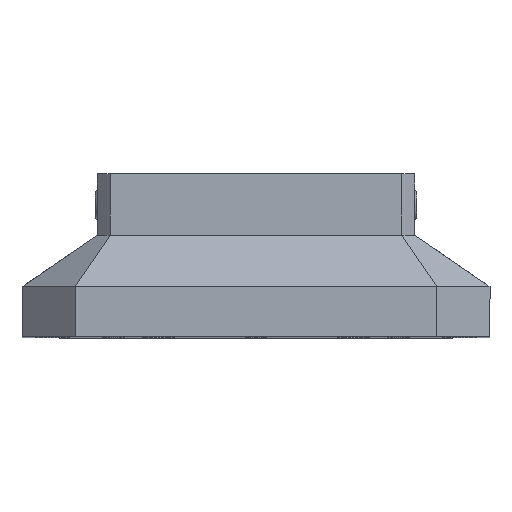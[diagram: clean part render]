
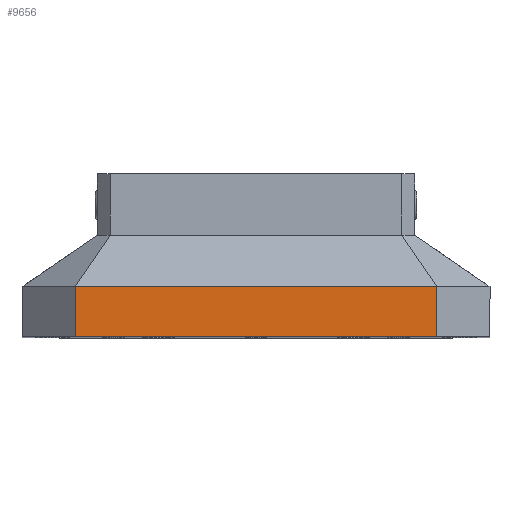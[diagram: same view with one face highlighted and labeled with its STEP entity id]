
A CAD part, top view. The second image highlights one B-rep face of the part: STEP entity #9656.
In plain terms, the highlighted planar face has unit normal (0, 0, 1) as drawn and (-1, 0, 0) by its records, which use the part's own axes.
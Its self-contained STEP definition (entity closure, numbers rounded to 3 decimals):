
#301 = DIRECTION ( 'NONE',  ( 0., 1., 0. ) ) ;
#405 = ORIENTED_EDGE ( 'NONE', *, *, #1131, .T. ) ;
#1131 = EDGE_CURVE ( 'NONE', #8986, #2150, #8290, .T. ) ;
#1228 = EDGE_CURVE ( 'NONE', #10404, #2150, #13823, .T. ) ;
#1678 = FACE_OUTER_BOUND ( 'NONE', #10096, .T. ) ;
#2150 = VERTEX_POINT ( 'NONE', #13621 ) ;
#2915 = LINE ( 'NONE', #15494, #4788 ) ;
#3446 = EDGE_CURVE ( 'NONE', #8986, #3770, #2915, .T. ) ;
#3532 = CARTESIAN_POINT ( 'NONE',  ( -190.5, 0., 88.9 ) ) ;
#3770 = VERTEX_POINT ( 'NONE', #12435 ) ;
#4788 = VECTOR ( 'NONE', #10700, 1000. ) ;
#6019 = ORIENTED_EDGE ( 'NONE', *, *, #3446, .F. ) ;
#7787 = EDGE_CURVE ( 'NONE', #3770, #10404, #15528, .T. ) ;
#7806 = CARTESIAN_POINT ( 'NONE',  ( -190.5, 0., -88.9 ) ) ;
#7992 = AXIS2_PLACEMENT_3D ( 'NONE', #13014, #10529, #11547 ) ;
#8290 = LINE ( 'NONE', #3532, #8641 ) ;
#8411 = CARTESIAN_POINT ( 'NONE',  ( -190.5, 24.6, -88.9 ) ) ;
#8641 = VECTOR ( 'NONE', #10910, 1000. ) ;
#8986 = VERTEX_POINT ( 'NONE', #9752 ) ;
#9656 = ADVANCED_FACE ( 'NONE', ( #1678 ), #12777, .F. ) ;
#9752 = CARTESIAN_POINT ( 'NONE',  ( -190.5, 0., 88.9 ) ) ;
#9939 = ORIENTED_EDGE ( 'NONE', *, *, #7787, .F. ) ;
#10096 = EDGE_LOOP ( 'NONE', ( #405, #12836, #9939, #6019 ) ) ;
#10404 = VERTEX_POINT ( 'NONE', #8411 ) ;
#10529 = DIRECTION ( 'NONE',  ( 1., 0., 0. ) ) ;
#10700 = DIRECTION ( 'NONE',  ( 0., 0., -1. ) ) ;
#10910 = DIRECTION ( 'NONE',  ( 0., 1., 0. ) ) ;
#11547 = DIRECTION ( 'NONE',  ( 0., 0., -1. ) ) ;
#12435 = CARTESIAN_POINT ( 'NONE',  ( -190.5, 0., -88.9 ) ) ;
#12777 = PLANE ( 'NONE',  #7992 ) ;
#12836 = ORIENTED_EDGE ( 'NONE', *, *, #1228, .F. ) ;
#12864 = VECTOR ( 'NONE', #301, 1000. ) ;
#13014 = CARTESIAN_POINT ( 'NONE',  ( -190.5, 0., -88.9 ) ) ;
#13621 = CARTESIAN_POINT ( 'NONE',  ( -190.5, 24.6, 88.9 ) ) ;
#13652 = DIRECTION ( 'NONE',  ( 0., 0., 1. ) ) ;
#13823 = LINE ( 'NONE', #13905, #14169 ) ;
#13905 = CARTESIAN_POINT ( 'NONE',  ( -190.5, 24.6, -115. ) ) ;
#14169 = VECTOR ( 'NONE', #13652, 1000. ) ;
#15494 = CARTESIAN_POINT ( 'NONE',  ( -190.5, 0., -88.9 ) ) ;
#15528 = LINE ( 'NONE', #7806, #12864 ) ;
